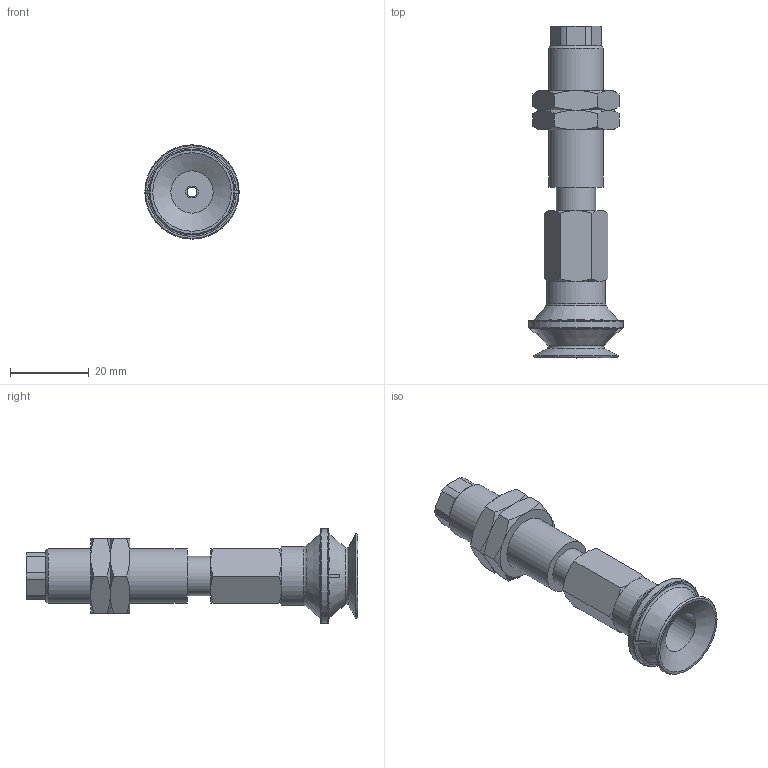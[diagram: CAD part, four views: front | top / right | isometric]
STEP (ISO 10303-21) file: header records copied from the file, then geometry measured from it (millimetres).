
FILE_DESCRIPTION(('STEP AP203'),'1');
FILE_NAME('.stp','2025-08-27T01:12:59',(' '),(' '),'Spatial InterOp 3D',' ',' ');
FILE_SCHEMA(('CONFIG_CONTROL_DESIGN'));
Length unit declared in the file: millimetre
Products named in the file (7): BNABPBTS-20-6-※; ADAPTER; NAPBTS-20-6--M; Adapter20-T-NAPB; Nut-20-S-PB; NAPBTS-20-6--F; BPBG-20-※
Assembly tree (7 placements, depth 2):
  BNABPBTS-20-6-※
    ADAPTER
    NAPBTS-20-6--M
    Adapter20-T-NAPB
    Nut-20-S-PB  x2
    NAPBTS-20-6--F
    BPBG-20-※
Bounding box: 24 x 84.5 x 24 mm (x, y, z)
Volume: 14413.9 mm3; surface area: 11142.2 mm2
Topology: 7 solids, 7 shells, 139 faces, 302 edges, 184 vertices
Faces by surface type: plane 57, cone 51, cylinder 22, torus 9
Full cylindrical faces by diameter (mm): 2.5 x1, 3 x2, 4.134 x2, 4.6 x1, 5 x1, 10 x2, 10.8 x1, 11 x1, 12.917 x2, 14 x1, 15 x1, 24 x1
Entity records: 3526 total; most frequent: CARTESIAN_POINT 818, DIRECTION 508, ORIENTED_EDGE 422, AXIS2_PLACEMENT_3D 221, EDGE_CURVE 211, EDGE_LOOP 168, VERTEX_POINT 147, FACE_OUTER_BOUND 138
